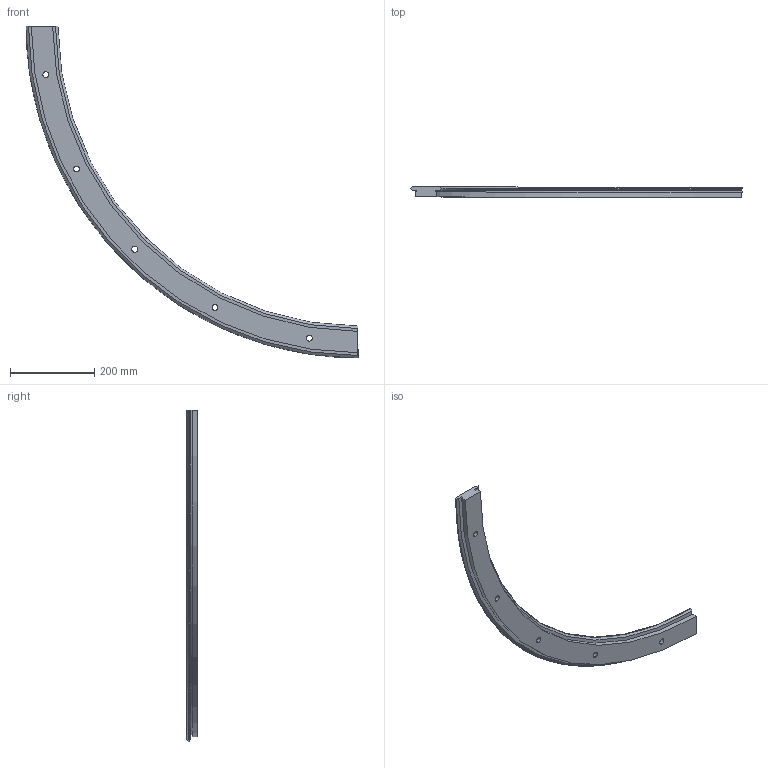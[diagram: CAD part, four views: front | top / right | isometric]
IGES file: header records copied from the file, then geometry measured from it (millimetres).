
Start section: 3D InterOp IGES (v. 2020 1.0.1), Spatial Corp. Copyright (c) 1999-2017.
Global section: file name: r76_1501_r90.igs; native system: Spatial Corp.; preprocessor: 3D InterOp ACIS/IGES; author: TraceParts; organization: TraceParts S.A.; date: 20220624.073642; units: millimetre
Bounding box: 786.3 x 24 x 786.3 mm (x, y, z)
Surface area: 246119 mm2 (no closed solid volume)
Topology: 0 solids, 0 shells, 45 faces, 228 edges, 228 vertices
Faces by surface type: revolution 32, extrusion 13
